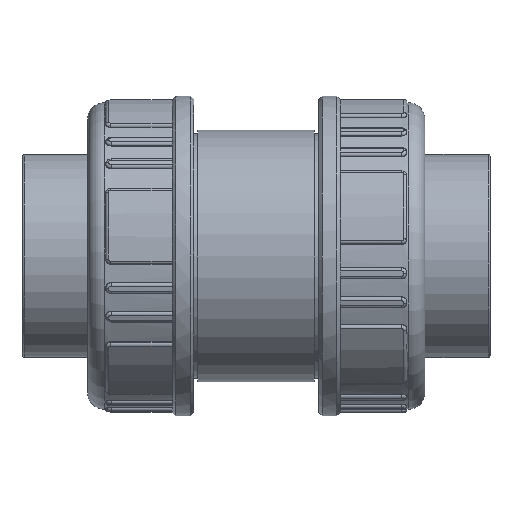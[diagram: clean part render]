
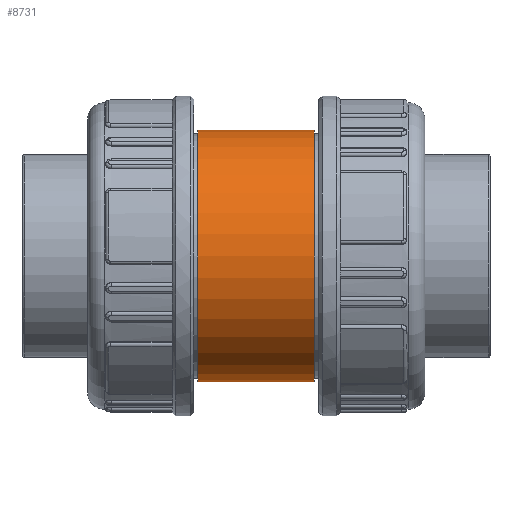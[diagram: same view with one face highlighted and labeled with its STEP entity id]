
A CAD part, left-side view. The second image highlights one B-rep face of the part: STEP entity #8731.
In plain terms, the highlighted cylindrical face has radius 38 mm (diameter 76 mm), a full revolution.
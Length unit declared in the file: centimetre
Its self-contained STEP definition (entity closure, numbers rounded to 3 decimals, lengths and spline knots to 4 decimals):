
#206=B_SPLINE_CURVE_WITH_KNOTS('',3,(#35799,#35800,#35801,#35802,#35803,
#35804,#35805,#35806,#35807,#35808,#35809,#35810,#35811,#35812,#35813,#35814,
#35815,#35816,#35817,#35818,#35819,#35820,#35821,#35822,#35823,#35824,#35825,
#35826,#35827,#35828,#35829,#35830,#35831,#35832,#35833,#35834,#35835,#35836,
#35837,#35838,#35839,#35840,#35841,#35842,#35843,#35844,#35845,#35846,#35847,
#35848,#35849,#35850,#35851,#35852,#35853,#35854,#35855,#35856),
 .UNSPECIFIED.,.T.,.F.,(4,2,2,2,2,2,2,2,2,2,2,2,2,2,2,2,2,2,2,2,2,2,2,2,
2,2,2,2,4),(0.,0.3057,0.6115,1.2229,1.5283,
1.8336,2.1389,2.4443,2.7496,3.055,
3.3603,3.6657,4.2771,4.5829,4.8886,
5.1943,5.5,6.1115,6.4168,6.7222,
7.0275,7.3329,7.6382,7.9436,8.2489,
8.5542,9.1657,9.4714,9.7772),
 .UNSPECIFIED.);
#1608=CYLINDRICAL_SURFACE('',#9553,3.8);
#1661=FACE_BOUND('',#2742,.T.);
#1662=FACE_BOUND('',#2743,.T.);
#2177=FACE_OUTER_BOUND('',#2741,.T.);
#2741=EDGE_LOOP('',(#7521));
#2742=EDGE_LOOP('',(#7522));
#2743=EDGE_LOOP('',(#7523));
#3188=CIRCLE('',#9554,3.8);
#3189=CIRCLE('',#9555,3.8);
#3615=VERTEX_POINT('',#35798);
#3930=VERTEX_POINT('',#59005);
#3931=VERTEX_POINT('',#59007);
#4616=EDGE_CURVE('',#3615,#3615,#206,.T.);
#5129=EDGE_CURVE('',#3930,#3930,#3188,.T.);
#5130=EDGE_CURVE('',#3931,#3931,#3189,.T.);
#7521=ORIENTED_EDGE('',*,*,#5129,.F.);
#7522=ORIENTED_EDGE('',*,*,#4616,.T.);
#7523=ORIENTED_EDGE('',*,*,#5130,.T.);
#8731=ADVANCED_FACE('',(#2177,#1661,#1662),#1608,.T.);
#9553=AXIS2_PLACEMENT_3D('',#59004,#11681,#11682);
#9554=AXIS2_PLACEMENT_3D('',#59006,#11683,#11684);
#9555=AXIS2_PLACEMENT_3D('',#59008,#11685,#11686);
#11681=DIRECTION('center_axis',(0.,-1.,0.));
#11682=DIRECTION('ref_axis',(-1.,0.,0.));
#11683=DIRECTION('center_axis',(0.,-1.,0.));
#11684=DIRECTION('ref_axis',(1.,0.,0.));
#11685=DIRECTION('center_axis',(0.,-1.,0.));
#11686=DIRECTION('ref_axis',(1.,0.,0.));
#35798=CARTESIAN_POINT('',(3.4467,0.,-1.6));
#35799=CARTESIAN_POINT('Ctrl Pts',(3.4467,0.,-1.6));
#35800=CARTESIAN_POINT('Ctrl Pts',(3.4467,-0.1019,
-1.6));
#35801=CARTESIAN_POINT('Ctrl Pts',(3.4514,-0.2068,
-1.5901));
#35802=CARTESIAN_POINT('Ctrl Pts',(3.47,-0.4146,
-1.549));
#35803=CARTESIAN_POINT('Ctrl Pts',(3.484,-0.5175,
-1.5177));
#35804=CARTESIAN_POINT('Ctrl Pts',(3.5359,-0.8124,-1.3947));
#35805=CARTESIAN_POINT('Ctrl Pts',(3.5838,-0.9906,
-1.2721));
#35806=CARTESIAN_POINT('Ctrl Pts',(3.6496,-1.2017,-1.0611));
#35807=CARTESIAN_POINT('Ctrl Pts',(3.6721,-1.2678,-0.9816));
#35808=CARTESIAN_POINT('Ctrl Pts',(3.7141,-1.3849,-0.8082));
#35809=CARTESIAN_POINT('Ctrl Pts',(3.7336,-1.4357,-0.7142));
#35810=CARTESIAN_POINT('Ctrl Pts',(3.7659,-1.5178,-0.5174));
#35811=CARTESIAN_POINT('Ctrl Pts',(3.7788,-1.549,-0.4145));
#35812=CARTESIAN_POINT('Ctrl Pts',(3.7958,-1.5901,-0.2066));
#35813=CARTESIAN_POINT('Ctrl Pts',(3.8,-1.6,-0.1018));
#35814=CARTESIAN_POINT('Ctrl Pts',(3.8,-1.6,0.1018));
#35815=CARTESIAN_POINT('Ctrl Pts',(3.7958,-1.5901,0.2066));
#35816=CARTESIAN_POINT('Ctrl Pts',(3.7788,-1.549,0.4145));
#35817=CARTESIAN_POINT('Ctrl Pts',(3.7659,-1.5178,0.5174));
#35818=CARTESIAN_POINT('Ctrl Pts',(3.7336,-1.4357,0.7142));
#35819=CARTESIAN_POINT('Ctrl Pts',(3.7141,-1.3849,0.8082));
#35820=CARTESIAN_POINT('Ctrl Pts',(3.6721,-1.2678,0.9816));
#35821=CARTESIAN_POINT('Ctrl Pts',(3.6496,-1.2017,1.0611));
#35822=CARTESIAN_POINT('Ctrl Pts',(3.5838,-0.9906,
1.2721));
#35823=CARTESIAN_POINT('Ctrl Pts',(3.5359,-0.8124,1.3947));
#35824=CARTESIAN_POINT('Ctrl Pts',(3.484,-0.5175,
1.5177));
#35825=CARTESIAN_POINT('Ctrl Pts',(3.47,-0.4146,
1.549));
#35826=CARTESIAN_POINT('Ctrl Pts',(3.4514,-0.2068,
1.5901));
#35827=CARTESIAN_POINT('Ctrl Pts',(3.4467,-0.1019,
1.6));
#35828=CARTESIAN_POINT('Ctrl Pts',(3.4467,0.1019,1.6));
#35829=CARTESIAN_POINT('Ctrl Pts',(3.4514,0.2068,1.5901));
#35830=CARTESIAN_POINT('Ctrl Pts',(3.47,0.4146,1.549));
#35831=CARTESIAN_POINT('Ctrl Pts',(3.484,0.5175,1.5177));
#35832=CARTESIAN_POINT('Ctrl Pts',(3.5359,0.8124,1.3947));
#35833=CARTESIAN_POINT('Ctrl Pts',(3.5838,0.9906,1.2721));
#35834=CARTESIAN_POINT('Ctrl Pts',(3.6496,1.2017,1.0611));
#35835=CARTESIAN_POINT('Ctrl Pts',(3.6721,1.2678,0.9816));
#35836=CARTESIAN_POINT('Ctrl Pts',(3.7141,1.3849,0.8082));
#35837=CARTESIAN_POINT('Ctrl Pts',(3.7336,1.4357,0.7142));
#35838=CARTESIAN_POINT('Ctrl Pts',(3.7659,1.5178,0.5174));
#35839=CARTESIAN_POINT('Ctrl Pts',(3.7788,1.549,0.4145));
#35840=CARTESIAN_POINT('Ctrl Pts',(3.7958,1.5901,0.2066));
#35841=CARTESIAN_POINT('Ctrl Pts',(3.8,1.6,0.1018));
#35842=CARTESIAN_POINT('Ctrl Pts',(3.8,1.6,-0.1018));
#35843=CARTESIAN_POINT('Ctrl Pts',(3.7958,1.5901,-0.2066));
#35844=CARTESIAN_POINT('Ctrl Pts',(3.7788,1.549,-0.4145));
#35845=CARTESIAN_POINT('Ctrl Pts',(3.7659,1.5178,-0.5174));
#35846=CARTESIAN_POINT('Ctrl Pts',(3.7336,1.4357,-0.7142));
#35847=CARTESIAN_POINT('Ctrl Pts',(3.7141,1.3849,-0.8082));
#35848=CARTESIAN_POINT('Ctrl Pts',(3.6721,1.2678,-0.9816));
#35849=CARTESIAN_POINT('Ctrl Pts',(3.6496,1.2017,-1.0611));
#35850=CARTESIAN_POINT('Ctrl Pts',(3.5838,0.9906,-1.2721));
#35851=CARTESIAN_POINT('Ctrl Pts',(3.5359,0.8124,-1.3947));
#35852=CARTESIAN_POINT('Ctrl Pts',(3.484,0.5175,-1.5177));
#35853=CARTESIAN_POINT('Ctrl Pts',(3.47,0.4146,-1.549));
#35854=CARTESIAN_POINT('Ctrl Pts',(3.4514,0.2068,-1.5901));
#35855=CARTESIAN_POINT('Ctrl Pts',(3.4467,0.1019,-1.6));
#35856=CARTESIAN_POINT('Ctrl Pts',(3.4467,0.,-1.6));
#59004=CARTESIAN_POINT('Origin',(0.,0.005,
0.));
#59005=CARTESIAN_POINT('',(-3.8,-1.755,0.));
#59006=CARTESIAN_POINT('Origin',(0.,-1.755,0.));
#59007=CARTESIAN_POINT('',(-3.8,1.765,0.));
#59008=CARTESIAN_POINT('Origin',(0.,1.765,0.));
